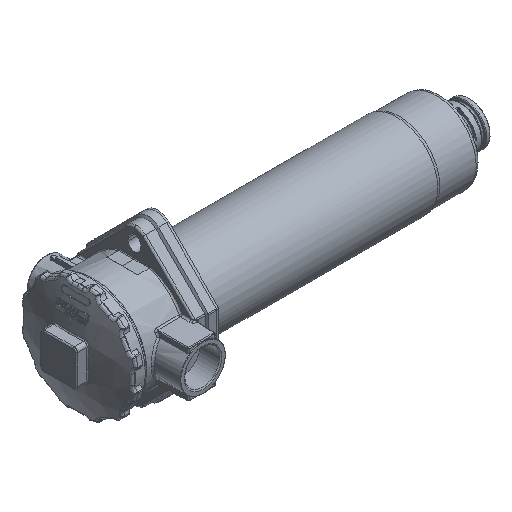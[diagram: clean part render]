
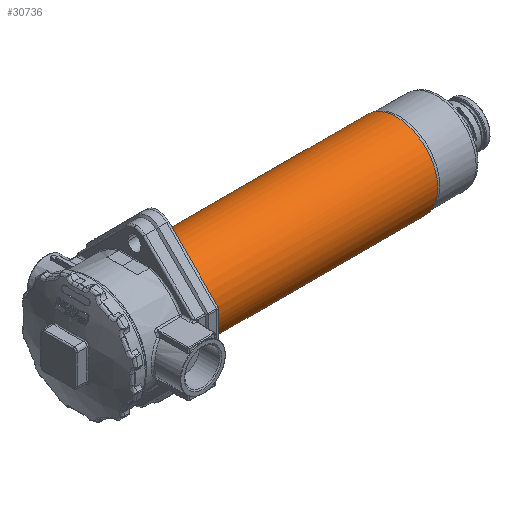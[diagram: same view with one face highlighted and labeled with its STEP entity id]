
A CAD part, isometric view. The second image highlights one B-rep face of the part: STEP entity #30736.
In plain terms, the highlighted free-form (B-spline) face has degree [2, 1] with [7, 2] control points.
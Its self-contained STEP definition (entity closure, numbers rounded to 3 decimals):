
#30657=CARTESIAN_POINT('V1643',(276.0,-36.5,
   0.));
#30658=VERTEX_POINT('V1643',#30657);
#30664=CARTESIAN_POINT('E2681',(276.0,-36.5,
   0.));
#30665=CARTESIAN_POINT('E2681',(276.0,-36.5,
   -63.22));
#30666=CARTESIAN_POINT('E2681',(276.0,18.25,
   -31.61));
#30667=CARTESIAN_POINT('E2681',(276.0,73.0,0.));
#30668=CARTESIAN_POINT('E2681',(276.0,18.25,
   31.61));
#30669=CARTESIAN_POINT('E2681',(276.0,-36.5,
   63.22));
#30670=CARTESIAN_POINT('E2681',(276.0,-36.5,
   0.));
#30678=(BOUNDED_CURVE()B_SPLINE_CURVE(2,(#30664,#30665,#30666,
   #30667,#30668,#30669,#30670),.CIRCULAR_ARC.,.T.,.U.)
   B_SPLINE_CURVE_WITH_KNOTS((3,2,2,3),(0.0,42.653,
   85.305,127.958),.UNSPECIFIED.)CURVE()
   GEOMETRIC_REPRESENTATION_ITEM()RATIONAL_B_SPLINE_CURVE((1.0,
   0.5,1.0,0.5,1.0,0.5,1.0)
   )REPRESENTATION_ITEM('E2681'));
#30679=EDGE_CURVE('E2681',#30658,#30658,#30678,.T.);
#30686=CARTESIAN_POINT('F1026',(48.0,-36.5,
   0.));
#30687=CARTESIAN_POINT('F1026',(48.0,-36.5,
   -63.22));
#30688=CARTESIAN_POINT('F1026',(48.0,18.25,
   -31.61));
#30689=CARTESIAN_POINT('F1026',(48.0,73.0,0.));
#30690=CARTESIAN_POINT('F1026',(48.0,18.25,
   31.61));
#30691=CARTESIAN_POINT('F1026',(48.0,-36.5,
   63.22));
#30692=CARTESIAN_POINT('F1026',(48.0,-36.5,
   0.));
#30693=CARTESIAN_POINT('F1026',(276.0,-36.5,
   0.));
#30694=CARTESIAN_POINT('F1026',(276.0,-36.5,
   -63.22));
#30695=CARTESIAN_POINT('F1026',(276.0,18.25,
   -31.61));
#30696=CARTESIAN_POINT('F1026',(276.0,73.0,0.));
#30697=CARTESIAN_POINT('F1026',(276.0,18.25,
   31.61));
#30698=CARTESIAN_POINT('F1026',(276.0,-36.5,
   63.22));
#30699=CARTESIAN_POINT('F1026',(276.0,-36.5,
   0.));
#30707=(BOUNDED_SURFACE()B_SPLINE_SURFACE(2,1,((#30686,#30693),(
   #30687,#30694),(#30688,#30695),(#30689,#30696),(#30690,
   #30697),(#30691,#30698),(#30692,#30699)),.CYLINDRICAL_SURF.,
   .T.,.F.,.U.)B_SPLINE_SURFACE_WITH_KNOTS((3,2,2,3),(2,2),(0.0,
   0.555,1.109,1.664),(0.0,1.0),
   .UNSPECIFIED.)GEOMETRIC_REPRESENTATION_ITEM()
   RATIONAL_B_SPLINE_SURFACE(((1.0,1.0),(0.5,
   0.5),(1.0,1.0),(0.5,
   0.5),(1.0,1.0),(0.5,
   0.5),(1.0,1.0)))REPRESENTATION_ITEM('F1026')
   SURFACE());
#30708=CARTESIAN_POINT('V1649',(69.,
   -36.5,0.));
#30709=VERTEX_POINT('V1649',#30708);
#30710=CARTESIAN_POINT('E2701',(69.,
   -36.5,0.));
#30711=CARTESIAN_POINT('E2701',(69.,
   -36.5,63.22));
#30712=CARTESIAN_POINT('E2701',(69.,
   18.25,31.61));
#30713=CARTESIAN_POINT('E2701',(69.,73.0,
   0.));
#30714=CARTESIAN_POINT('E2701',(69.,
   18.25,-31.61));
#30715=CARTESIAN_POINT('E2701',(69.,
   -36.5,-63.22));
#30716=CARTESIAN_POINT('E2701',(69.,
   -36.5,0.));
#30724=(BOUNDED_CURVE()B_SPLINE_CURVE(2,(#30710,#30711,#30712,
   #30713,#30714,#30715,#30716),.CIRCULAR_ARC.,.T.,.U.)
   B_SPLINE_CURVE_WITH_KNOTS((3,2,2,3),(0.0,0.333,
   0.667,1.0),.UNSPECIFIED.)CURVE()
   GEOMETRIC_REPRESENTATION_ITEM()RATIONAL_B_SPLINE_CURVE((1.0,
   0.5,1.0,0.5,1.0,0.5,1.0)
   )REPRESENTATION_ITEM('E2701'));
#30725=EDGE_CURVE('E2701',#30709,#30709,#30724,.T.);
#30726=ORIENTED_EDGE('E2701',*,*,#30725,.F.);
#30727=CARTESIAN_POINT('E2702',(276.0,-36.5,0.0));
#30728=CARTESIAN_POINT('E2702',(69.,
   -36.5,0.0));
#30729=B_SPLINE_CURVE_WITH_KNOTS('E2702',1,(#30727,#30728),
   .POLYLINE_FORM.,.F.,.U.,(2,2),(0.0,0.908),
   .UNSPECIFIED.);
#30730=EDGE_CURVE('E2702',#30658,#30709,#30729,.T.);
#30731=ORIENTED_EDGE('E2702',*,*,#30730,.F.);
#30732=ORIENTED_EDGE('E2681',*,*,#30679,.F.);
#30733=ORIENTED_EDGE('E2702',*,*,#30730,.T.);
#30734=EDGE_LOOP('F1026',(#30726,#30731,#30732,#30733));
#30735=FACE_OUTER_BOUND('F1026',#30734,.T.);
#30736=ADVANCED_FACE('F1026',(#30735),#30707,.T.);
